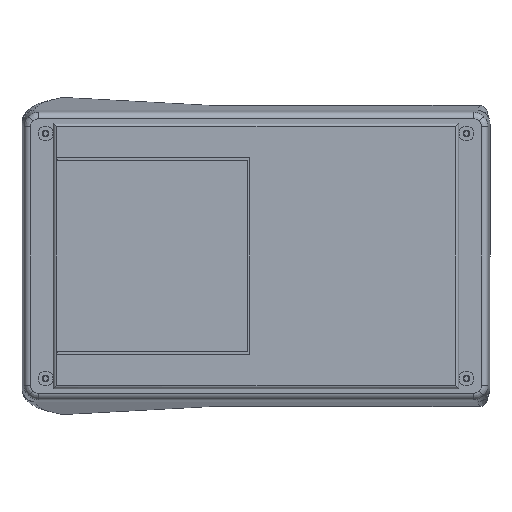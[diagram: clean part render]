
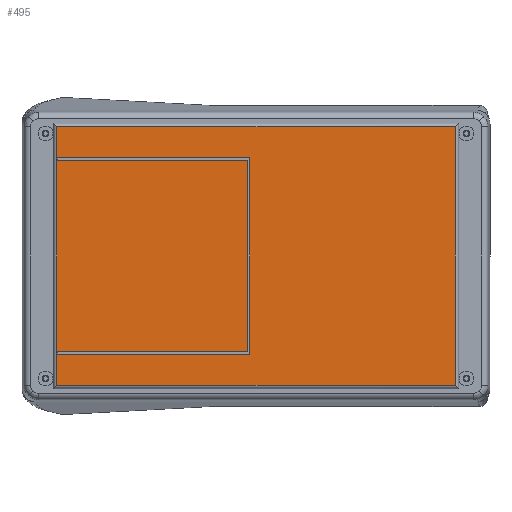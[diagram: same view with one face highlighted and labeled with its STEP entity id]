
A CAD part, front view. The second image highlights one B-rep face of the part: STEP entity #495.
In plain terms, the highlighted planar face has unit normal (0, -1, 0).
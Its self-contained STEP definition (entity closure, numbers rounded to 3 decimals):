
#7 = EDGE_CURVE ( 'NONE', #6975, #2608, #5303, .T. ) ;
#28 = VECTOR ( 'NONE', #3022, 1000. ) ;
#411 = CARTESIAN_POINT ( 'NONE',  ( -62., -16., -40.25 ) ) ;
#479 = AXIS2_PLACEMENT_3D ( 'NONE', #1601, #3018, #7932 ) ;
#495 = ADVANCED_FACE ( 'NONE', ( #6615, #8923 ), #7231, .T. ) ;
#624 = DIRECTION ( 'NONE',  ( -1., 0., 0. ) ) ;
#839 = CARTESIAN_POINT ( 'NONE',  ( -2.7, -16., -29.7 ) ) ;
#863 = CARTESIAN_POINT ( 'NONE',  ( -62., -16., 40.25 ) ) ;
#871 = DIRECTION ( 'NONE',  ( 1., 0., 0. ) ) ;
#876 = LINE ( 'NONE', #4576, #7478 ) ;
#894 = ORIENTED_EDGE ( 'NONE', *, *, #9026, .F. ) ;
#902 = VECTOR ( 'NONE', #3492, 1000. ) ;
#949 = VECTOR ( 'NONE', #2028, 1000. ) ;
#991 = CARTESIAN_POINT ( 'NONE',  ( -61.841, -16., 30.5 ) ) ;
#1044 = VECTOR ( 'NONE', #624, 1000. ) ;
#1059 = DIRECTION ( 'NONE',  ( -1., 0., 0. ) ) ;
#1140 = VECTOR ( 'NONE', #6170, 1000. ) ;
#1536 = CARTESIAN_POINT ( 'NONE',  ( -61.841, -16., -30.5 ) ) ;
#1601 = CARTESIAN_POINT ( 'NONE',  ( -63., -16., 41.25 ) ) ;
#1605 = VERTEX_POINT ( 'NONE', #2627 ) ;
#1609 = VECTOR ( 'NONE', #5394, 1000. ) ;
#1928 = LINE ( 'NONE', #8439, #5459 ) ;
#1933 = CARTESIAN_POINT ( 'NONE',  ( -1.9, -16., 30.5 ) ) ;
#1983 = ORIENTED_EDGE ( 'NONE', *, *, #4176, .F. ) ;
#2028 = DIRECTION ( 'NONE',  ( 0., 0., 1. ) ) ;
#2104 = LINE ( 'NONE', #5104, #28 ) ;
#2416 = VECTOR ( 'NONE', #7319, 1000. ) ;
#2604 = LINE ( 'NONE', #6954, #949 ) ;
#2608 = VERTEX_POINT ( 'NONE', #5166 ) ;
#2627 = CARTESIAN_POINT ( 'NONE',  ( -61.841, -16., -29.7 ) ) ;
#2783 = VECTOR ( 'NONE', #6881, 1000. ) ;
#2798 = CARTESIAN_POINT ( 'NONE',  ( -61.841, -16., 30.5 ) ) ;
#3018 = DIRECTION ( 'NONE',  ( 0., -1., 0. ) ) ;
#3022 = DIRECTION ( 'NONE',  ( 0., 0., -1. ) ) ;
#3128 = ORIENTED_EDGE ( 'NONE', *, *, #5365, .T. ) ;
#3267 = CARTESIAN_POINT ( 'NONE',  ( -62., -16., -41.25 ) ) ;
#3407 = CARTESIAN_POINT ( 'NONE',  ( -63., -16., 40.25 ) ) ;
#3410 = VECTOR ( 'NONE', #1059, 1000. ) ;
#3492 = DIRECTION ( 'NONE',  ( 0., 0., -1. ) ) ;
#3556 = VERTEX_POINT ( 'NONE', #7356 ) ;
#4003 = ORIENTED_EDGE ( 'NONE', *, *, #7597, .T. ) ;
#4176 = EDGE_CURVE ( 'NONE', #2608, #6333, #8348, .T. ) ;
#4262 = LINE ( 'NONE', #5193, #2416 ) ;
#4353 = EDGE_CURVE ( 'NONE', #5787, #8977, #6621, .T. ) ;
#4576 = CARTESIAN_POINT ( 'NONE',  ( -61.841, -16., -29.7 ) ) ;
#4588 = VERTEX_POINT ( 'NONE', #5529 ) ;
#4677 = LINE ( 'NONE', #6186, #2783 ) ;
#4779 = LINE ( 'NONE', #3407, #1044 ) ;
#5104 = CARTESIAN_POINT ( 'NONE',  ( -2.7, -16., 29.7 ) ) ;
#5127 = LINE ( 'NONE', #3267, #1609 ) ;
#5166 = CARTESIAN_POINT ( 'NONE',  ( -61.841, -16., 30.5 ) ) ;
#5193 = CARTESIAN_POINT ( 'NONE',  ( -61.841, -16., -29.7 ) ) ;
#5252 = EDGE_CURVE ( 'NONE', #6135, #1605, #876, .T. ) ;
#5271 = DIRECTION ( 'NONE',  ( -1., 0., 0. ) ) ;
#5303 = LINE ( 'NONE', #991, #3410 ) ;
#5314 = LINE ( 'NONE', #1933, #1140 ) ;
#5365 = EDGE_CURVE ( 'NONE', #6228, #5787, #5127, .T. ) ;
#5394 = DIRECTION ( 'NONE',  ( 0., 0., -1. ) ) ;
#5459 = VECTOR ( 'NONE', #7735, 1000. ) ;
#5529 = CARTESIAN_POINT ( 'NONE',  ( 62., -16., 40.25 ) ) ;
#5565 = EDGE_CURVE ( 'NONE', #6333, #7085, #1928, .T. ) ;
#5589 = ORIENTED_EDGE ( 'NONE', *, *, #8279, .F. ) ;
#5657 = VERTEX_POINT ( 'NONE', #1536 ) ;
#5787 = VERTEX_POINT ( 'NONE', #411 ) ;
#5800 = CARTESIAN_POINT ( 'NONE',  ( 63., -16., -40.25 ) ) ;
#5953 = EDGE_CURVE ( 'NONE', #8977, #4588, #2604, .T. ) ;
#6121 = ORIENTED_EDGE ( 'NONE', *, *, #4353, .T. ) ;
#6135 = VERTEX_POINT ( 'NONE', #839 ) ;
#6170 = DIRECTION ( 'NONE',  ( 0., 0., 1. ) ) ;
#6186 = CARTESIAN_POINT ( 'NONE',  ( -61.841, -16., -30.5 ) ) ;
#6228 = VERTEX_POINT ( 'NONE', #863 ) ;
#6333 = VERTEX_POINT ( 'NONE', #7775 ) ;
#6541 = CARTESIAN_POINT ( 'NONE',  ( 62., -16., -40.25 ) ) ;
#6571 = ORIENTED_EDGE ( 'NONE', *, *, #5565, .F. ) ;
#6615 = FACE_BOUND ( 'NONE', #7776, .T. ) ;
#6621 = LINE ( 'NONE', #5800, #8261 ) ;
#6881 = DIRECTION ( 'NONE',  ( 1., 0., 0. ) ) ;
#6917 = EDGE_CURVE ( 'NONE', #5657, #3556, #4677, .T. ) ;
#6954 = CARTESIAN_POINT ( 'NONE',  ( 62., -16., 41.25 ) ) ;
#6975 = VERTEX_POINT ( 'NONE', #7658 ) ;
#7085 = VERTEX_POINT ( 'NONE', #7844 ) ;
#7231 = PLANE ( 'NONE',  #479 ) ;
#7319 = DIRECTION ( 'NONE',  ( 0., 0., -1. ) ) ;
#7356 = CARTESIAN_POINT ( 'NONE',  ( -1.9, -16., -30.5 ) ) ;
#7478 = VECTOR ( 'NONE', #5271, 1000. ) ;
#7571 = EDGE_LOOP ( 'NONE', ( #8863, #4003, #3128, #6121 ) ) ;
#7597 = EDGE_CURVE ( 'NONE', #4588, #6228, #4779, .T. ) ;
#7658 = CARTESIAN_POINT ( 'NONE',  ( -1.9, -16., 30.5 ) ) ;
#7735 = DIRECTION ( 'NONE',  ( 1., 0., 0. ) ) ;
#7775 = CARTESIAN_POINT ( 'NONE',  ( -61.841, -16., 29.7 ) ) ;
#7776 = EDGE_LOOP ( 'NONE', ( #1983, #8745, #5589, #8605, #894, #8109, #8191, #6571 ) ) ;
#7844 = CARTESIAN_POINT ( 'NONE',  ( -2.7, -16., 29.7 ) ) ;
#7932 = DIRECTION ( 'NONE',  ( 0., 0., -1. ) ) ;
#7956 = EDGE_CURVE ( 'NONE', #7085, #6135, #2104, .T. ) ;
#8109 = ORIENTED_EDGE ( 'NONE', *, *, #5252, .F. ) ;
#8191 = ORIENTED_EDGE ( 'NONE', *, *, #7956, .F. ) ;
#8261 = VECTOR ( 'NONE', #871, 1000. ) ;
#8279 = EDGE_CURVE ( 'NONE', #3556, #6975, #5314, .T. ) ;
#8348 = LINE ( 'NONE', #2798, #902 ) ;
#8439 = CARTESIAN_POINT ( 'NONE',  ( -61.841, -16., 29.7 ) ) ;
#8605 = ORIENTED_EDGE ( 'NONE', *, *, #6917, .F. ) ;
#8745 = ORIENTED_EDGE ( 'NONE', *, *, #7, .F. ) ;
#8863 = ORIENTED_EDGE ( 'NONE', *, *, #5953, .T. ) ;
#8923 = FACE_OUTER_BOUND ( 'NONE', #7571, .T. ) ;
#8977 = VERTEX_POINT ( 'NONE', #6541 ) ;
#9026 = EDGE_CURVE ( 'NONE', #1605, #5657, #4262, .T. ) ;
